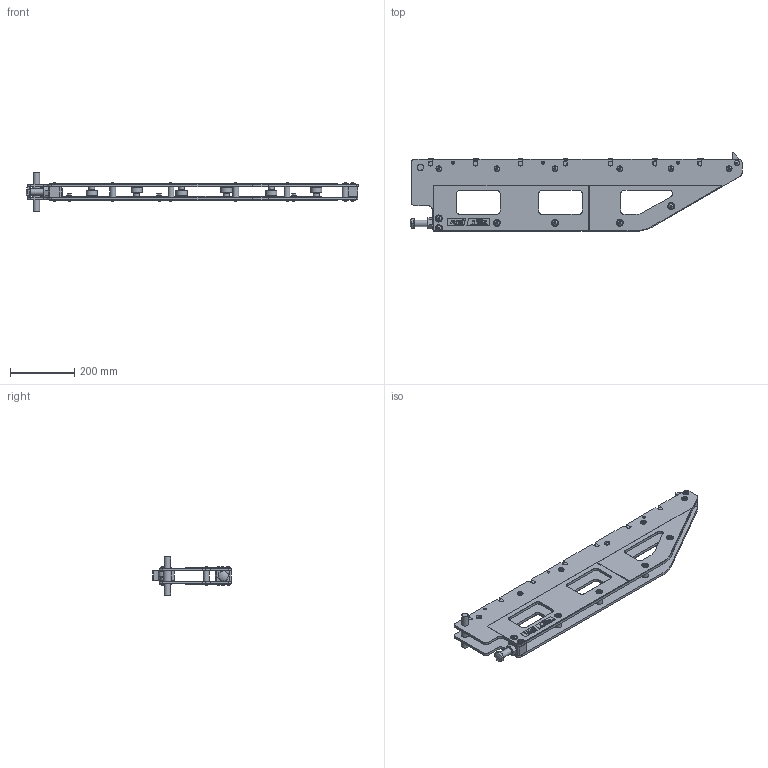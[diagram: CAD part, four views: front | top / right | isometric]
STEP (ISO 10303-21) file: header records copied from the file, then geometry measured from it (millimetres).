
FILE_DESCRIPTION(/* description */ ('CONSOLE PLATE'),/* implementation_level */ '2;1');
FILE_NAME(/* name */ 'C:\Users\jaccow\AppData\Local\Temp\Cadac\NetworkPub\step\FB904-950.iam.stp',/* time_stamp */ '2017-12-14T11:52:42+01:00',/* author */ ('Yue'),/* organization */ (''),/* preprocessor_version */ 'ST-DEVELOPER v16.1',/* originating_system */ 'Autodesk Inventor 2016',/* authorisation */ '');
FILE_SCHEMA (('AUTOMOTIVE_DESIGN { 1 0 10303 214 3 1 1 }'));
Products named in the file (17): FB905-101; FB756-104; FB751-186; FB627-104; DQ1504-281; FB669-101; FB755-104; FB754-044; FB757-690; CBE1200-1201D; DQ1509-028; CCE820-028-9A; CBB1080-1201D; CAE1080-1081A; FB906-026; FB907-026; FB904-950
Assembly tree (70 placements, depth 2):
  FB904-950
    FB905-101  x2
    FB756-104
    FB751-186  x10
    FB627-104  x7
    DQ1504-281  x7
    FB669-101
    FB755-104
    FB754-044
    FB757-690
    CBE1200-1201D
    DQ1509-028
    CCE820-028-9A  x29
    CBB1080-1201D  x3
    CAE1080-1081A  x3
    FB906-026
    FB907-026
Bounding box: 1034.78 x 245.17 x 120 mm (x, y, z)
Volume: 3303154.5 mm3; surface area: 1283148.4 mm2
Topology: 100 solids, 100 shells, 3471 faces, 8417 edges, 5468 vertices
Faces by surface type: plane 2018, bspline 584, cylinder 420, cone 335, torus 113, sphere 1
Full cylindrical faces by diameter (mm): 1.215 x7, 2.4 x7, 6.647 x16, 8 x29, 8.4 x3, 9 x30, 11 x3, 11.95 x1, 12 x2, 12.1 x1, 15 x14, 17 x3, 17.294 x2, 17.8 x29, 18 x17, 18.6 x7, 20 x5, 22 x10, 23.4 x7, 25 x1, 27.6 x28, 30 x1, 35 x7
Entity records: 74698 total; most frequent: CARTESIAN_POINT 21389, ORIENTED_EDGE 11776, DIRECTION 8720, EDGE_CURVE 5879, LINE 4310, VECTOR 4310, VERTEX_POINT 3960, EDGE_LOOP 2678
